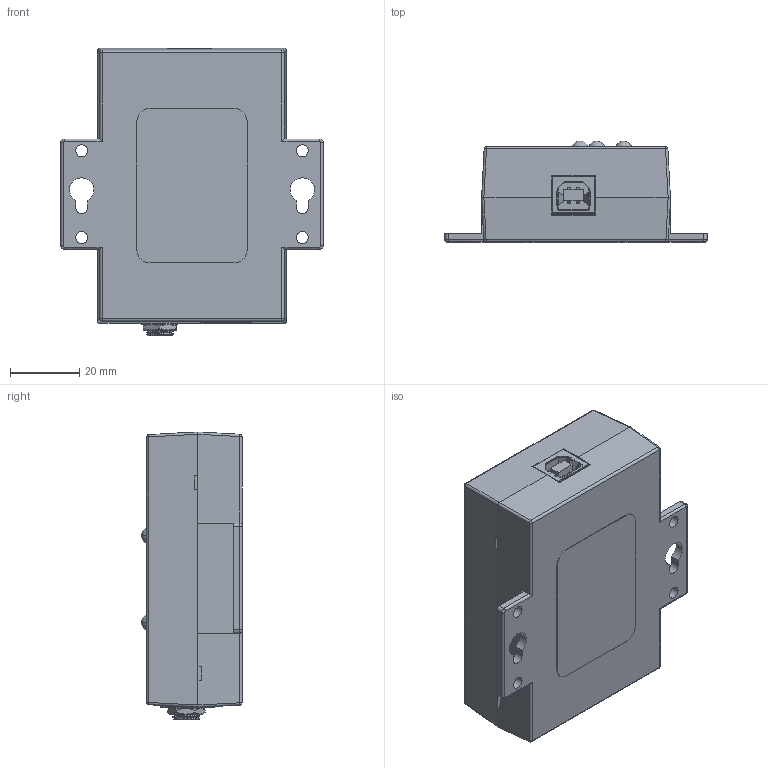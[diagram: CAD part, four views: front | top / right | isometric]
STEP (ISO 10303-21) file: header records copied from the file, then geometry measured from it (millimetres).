
FILE_DESCRIPTION (( 'STEP AP214' ), '1' );
FILE_NAME ('UHR402.STEP', '2018-10-18T18:51:15', ( '' ), ( '' ), 'SwSTEP 2.0', 'SolidWorks 2016', '' );
FILE_SCHEMA (( 'AUTOMOTIVE_DESIGN' ));
Length unit declared in the file: inch
Products named in the file (11): 8896 Dual USB A; 1311 Green LED; 4060 Lead Spacer 0.38L x 0.2D; 6256 Power Jack; 4921 USB B; PCB; 9007 Top; 8758 Bottom; UHR402; 250-11364-00 Silver Label; 250-10898-00 Top Label
Assembly tree (14 placements, depth 2):
  UHR402
    8758 Bottom
    9007 Top
    PCB
    4921 USB B
    6256 Power Jack
    4060 Lead Spacer 0.38L x 0.2D  x3
    1311 Green LED  x3
    8896 Dual USB A
    250-10898-00 Top Label
    250-11364-00 Silver Label
Bounding box: 75.49 x 29.31 x 82.9 mm (x, y, z)
Volume: 43660.7 mm3; surface area: 57192.2 mm2
Topology: 16 solids, 16 shells, 1621 faces, 4547 edges, 2986 vertices
Faces by surface type: plane 1056, cylinder 469, cone 49, bspline 20, sphere 14, torus 13
Entity records: 61231 total; most frequent: CARTESIAN_POINT 12531, ORIENTED_EDGE 8646, DIRECTION 7804, EDGE_CURVE 4323, LINE 3164, VECTOR 3164, VERTEX_POINT 2846, AXIS2_PLACEMENT_3D 2320
